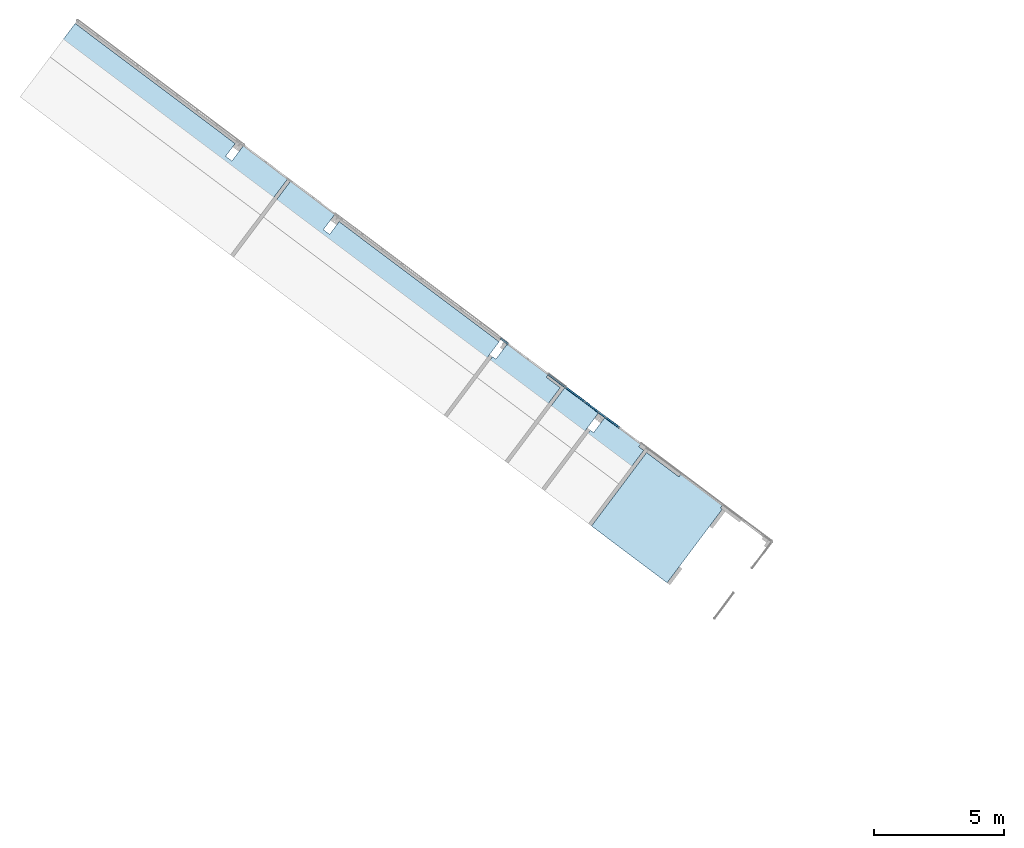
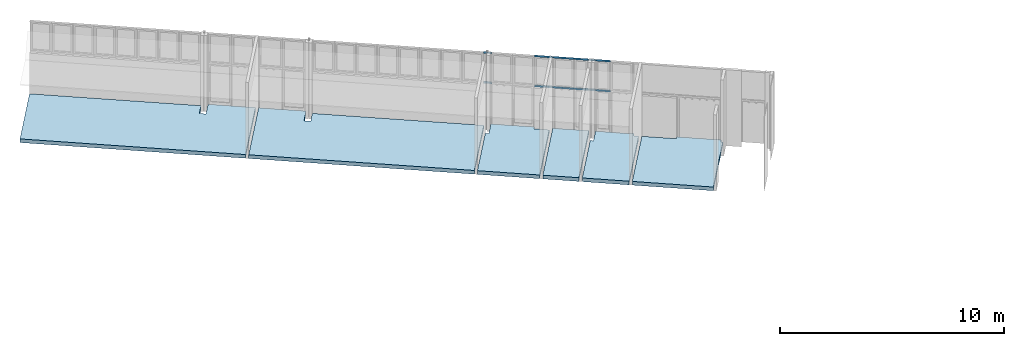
# One storey, part 4 of 18: 12 members, 6 slabs, 1 element without a shape of its own.
"""IFC2X3 building model written with IfcOpenShell, lengths in metres."""

import ifcopenshell
import ifcopenshell.guid

model = None  # the IFC model being written
_history = None  # IfcOwnerHistory: only IFC2X3 demands one
_inside = {}  # id of a spatial element -> (the spatial element, [elements in it])
_under = {}  # id of a project, library or spatial element -> (it, [spatial elements below it])
_declared = {}  # id of a project -> (the project, [libraries it declares])
_typed = {}  # id of a type object -> (the type object, [elements of that type])
_made_of = {}  # id of a material, layer set ... -> (it, [elements and type objects made of it])


def new_model(schema):
    """Start an empty IFC model of exactly this schema.

    Asked for "IFC4X3", IfcOpenShell would pick the latest addendum, in which some entities
    have other attributes; the version numbers below select the first issue.
    IFC2X3 requires an IfcOwnerHistory on every rooted entity: one is made here for all.
    """
    global model, _history
    if schema == "IFC4X3":
        model = ifcopenshell.file(schema_version=(4, 3, 0, 0))
    else:
        model = ifcopenshell.file(schema=schema)
    _inside.clear()
    _under.clear()
    _declared.clear()
    _typed.clear()
    _made_of.clear()
    _history = None
    if model.schema == "IFC2X3":
        org = make("IfcOrganization", Name="unknown")
        user = make(
            "IfcPersonAndOrganization",
            ThePerson=make("IfcPerson", FamilyName="unknown"),
            TheOrganization=org,
        )
        app = make(
            "IfcApplication",
            ApplicationDeveloper=org,
            Version="unknown",
            ApplicationFullName="unknown",
            ApplicationIdentifier="unknown",
        )
        _history = make(
            "IfcOwnerHistory",
            OwningUser=user,
            OwningApplication=app,
            ChangeAction="ADDED",
            CreationDate=0,
        )
    return model


def make(cls, **values):
    """One entity of the class cls with the attributes given. An attribute that is None is left unset."""
    return model.create_entity(
        cls, **{name: value for name, value in values.items() if value is not None}
    )


def entity(cls, *values):
    """Any entity or typed value of the class cls, its attributes in the order of the schema. None: left unset."""
    e = model.create_entity(cls)
    for i, value in enumerate(values):
        if value is not None:
            e[i] = value
    return e


def rooted(cls, **values):
    """An entity with a GlobalId (a new one), such as an element, a storey or a relation."""
    return make(cls, GlobalId=ifcopenshell.guid.new(), OwnerHistory=_history, **values)


def si_unit(unit_type, name, prefix=None):
    """IfcSIUnit, for example si_unit("LENGTHUNIT", "METRE", prefix="MILLI")."""
    return make("IfcSIUnit", UnitType=unit_type, Prefix=prefix, Name=name)


def converted_unit(unit_type, name, factor, base, dimensions=None, offset=None):
    """IfcConversionBasedUnit, such as the inch: factor (a typed value) times the base unit."""
    return make(
        "IfcConversionBasedUnit"
        if offset is None
        else "IfcConversionBasedUnitWithOffset",
        ConversionOffset=offset,
        Dimensions=None
        if dimensions is None
        else entity("IfcDimensionalExponents", *dimensions),
        UnitType=unit_type,
        Name=name,
        ConversionFactor=make(
            "IfcMeasureWithUnit", ValueComponent=factor, UnitComponent=base
        ),
    )


def derived_unit(unit_type, elements):
    """IfcDerivedUnit: a product of units, each with its exponent."""
    return make(
        "IfcDerivedUnit",
        Elements=[
            make("IfcDerivedUnitElement", Unit=unit, Exponent=power)
            for unit, power in elements
        ],
        UnitType=unit_type,
    )


def assignment(units):
    """IfcUnitAssignment: the units of a project."""
    return None if units is None else make("IfcUnitAssignment", Units=units)


def point(xyz):
    """IfcCartesianPoint."""
    return None if xyz is None else make("IfcCartesianPoint", Coordinates=xyz)


def direction(xyz):
    """IfcDirection."""
    return None if xyz is None else make("IfcDirection", DirectionRatios=xyz)


def frame(location, z_axis=None, x_axis=None):
    """IfcAxis2Placement3D, a coordinate frame: its origin and axes. An axis left out is left unset."""
    return make(
        "IfcAxis2Placement3D",
        Location=point(location),
        Axis=direction(z_axis),
        RefDirection=direction(x_axis),
    )


def frame_2d(location, x_axis=None):
    """IfcAxis2Placement2D, a coordinate frame in the plane: its origin and x axis."""
    return make(
        "IfcAxis2Placement2D", Location=point(location), RefDirection=direction(x_axis)
    )


def origin():
    """The frame at (0, 0, 0) with its axes left unset."""
    return frame((0.0, 0.0, 0.0))


def origin_2d_with_axis():
    """The frame at (0, 0) in the plane with the x axis (1, 0) written out."""
    return frame_2d((0.0, 0.0), x_axis=(1.0, 0.0))


def place(relative_to, where):
    """IfcLocalPlacement: puts the frame where relative to a parent placement (None: the world)."""
    return make(
        "IfcLocalPlacement", PlacementRelTo=relative_to, RelativePlacement=where
    )


def context(
    kind, dimensions, precision=None, world=None, true_north=None, identifier=None
):
    """IfcGeometricRepresentationContext, for example the 3D "Model" context."""
    return make(
        "IfcGeometricRepresentationContext",
        ContextIdentifier=identifier,
        ContextType=kind,
        CoordinateSpaceDimension=dimensions,
        Precision=precision,
        WorldCoordinateSystem=world,
        TrueNorth=true_north,
    )


def subcontext(parent, identifier, kind, view, scale=None):
    """IfcGeometricRepresentationSubContext, for example "Body" below "Model"."""
    return make(
        "IfcGeometricRepresentationSubContext",
        ContextIdentifier=identifier,
        ContextType=kind,
        ParentContext=parent,
        TargetScale=scale,
        TargetView=view,
    )


def project(units=None, contexts=None):
    """IfcProject with its units and contexts."""
    return rooted(
        "IfcProject",
        Name="project",
        RepresentationContexts=contexts,
        UnitsInContext=assignment(units),
    )


def spatial(cls, under=None, at=None, **own):
    """A site, building, storey or space (cls), placed at a placement, below another one or the project."""
    s = rooted(cls, ObjectPlacement=at, **own)
    if under is not None:
        _under.setdefault(under.id(), (under, []))[1].append(s)
    return s


def polyline(points):
    """IfcPolyline through the points."""
    return make("IfcPolyline", Points=[point(p) for p in points])


def profile(cls, at=None, kind="AREA", **sizes):
    """A parametric profile (cls). Its sizes go by their IFC names, for example OverallWidth=200.0."""
    return make(cls, ProfileType=kind, Position=at, **sizes)


def rectangle(**sizes):
    """IfcRectangleProfileDef."""
    return profile("IfcRectangleProfileDef", **sizes)


def outline(outer, holes=None, kind="AREA"):
    """IfcArbitraryClosedProfileDef: a profile drawn as a closed curve; with holes, ...WithVoids."""
    if holes is None:
        return make("IfcArbitraryClosedProfileDef", ProfileType=kind, OuterCurve=outer)
    return make(
        "IfcArbitraryProfileDefWithVoids",
        ProfileType=kind,
        OuterCurve=outer,
        InnerCurves=holes,
    )


def extrude(swept, where, along, depth):
    """IfcExtrudedAreaSolid: the profile swept, set in the frame where, extruded along a direction by depth."""
    return make(
        "IfcExtrudedAreaSolid",
        SweptArea=swept,
        Position=where,
        ExtrudedDirection=direction(along),
        Depth=depth,
    )


def shape(context_of_items, identifier, shape_type, items):
    """IfcShapeRepresentation: the items that make up one representation, for example the "Body"."""
    return make(
        "IfcShapeRepresentation",
        ContextOfItems=context_of_items,
        RepresentationIdentifier=identifier,
        RepresentationType=shape_type,
        Items=items,
    )


def source(mapping_origin, context_of_items, identifier, shape_type, items):
    """IfcRepresentationMap: a shape defined once, which mapped items show again and again."""
    return make(
        "IfcRepresentationMap",
        MappingOrigin=mapping_origin,
        MappedRepresentation=shape(context_of_items, identifier, shape_type, items),
    )


def transform(
    local_origin,
    x_axis=None,
    y_axis=None,
    z_axis=None,
    scale=None,
    scale2=None,
    scale3=None,
    uniform=True,
):
    """IfcCartesianTransformationOperator3D, or its non-uniform kind. x_axis, y_axis, z_axis: its Axis1, 2, 3."""
    if uniform:
        return make(
            "IfcCartesianTransformationOperator3D",
            Axis1=direction(x_axis),
            Axis2=direction(y_axis),
            LocalOrigin=point(local_origin),
            Scale=scale,
            Axis3=direction(z_axis),
        )
    return make(
        "IfcCartesianTransformationOperator3DnonUniform",
        Axis1=direction(x_axis),
        Axis2=direction(y_axis),
        LocalOrigin=point(local_origin),
        Scale=scale,
        Axis3=direction(z_axis),
        Scale2=scale2,
        Scale3=scale3,
    )


def mapped(mapping_source, mapping_target):
    """IfcMappedItem: shows the shape of a source again, moved by a transform."""
    return make(
        "IfcMappedItem", MappingSource=mapping_source, MappingTarget=mapping_target
    )


def material(Name=None, Category=None):
    """IfcMaterial."""
    return make("IfcMaterial", Name=Name, Category=Category)


def layer(
    of_material, thickness, ventilated=None, Name=None, Category=None, Priority=None
):
    """IfcMaterialLayer: one layer of a wall or slab, of a material (None: an air gap)."""
    return make(
        "IfcMaterialLayer",
        Material=of_material,
        LayerThickness=thickness,
        IsVentilated=ventilated,
        Name=Name,
        Category=Category,
        Priority=Priority,
    )


def layer_set(layers, Name=None):
    """IfcMaterialLayerSet."""
    return make("IfcMaterialLayerSet", MaterialLayers=layers, LayerSetName=Name)


def layer_usage(for_layer_set, set_direction, sense, offset, extent=None):
    """IfcMaterialLayerSetUsage: how a layer set lies in its element."""
    return make(
        "IfcMaterialLayerSetUsage",
        ForLayerSet=for_layer_set,
        LayerSetDirection=set_direction,
        DirectionSense=sense,
        OffsetFromReferenceLine=offset,
        ReferenceExtent=extent,
    )


def made_of(thing, what):
    """Note that an element or type object is made of a material, layer set ...; save() writes the relation."""
    if what is not None:
        _made_of.setdefault(what.id(), (what, []))[1].append(thing)
    return thing


def type_object(cls, material=None, **own):
    """A type object (cls), such as IfcWallType, which elements share."""
    return made_of(rooted(cls, **own), material)


def type_shapes(of_type, sources):
    """Give a type object the sources (RepresentationMaps) that its elements show as mapped items."""
    of_type.RepresentationMaps = sources


def element(
    cls,
    number,
    at=None,
    inside=None,
    cuts=None,
    type_object=None,
    material=None,
    context=None,
    identifier="Body",
    shape_type=None,
    held_by="IfcProductDefinitionShape",
    body=None,
    shapes=None,
    **own,
):
    """One element of the class cls, such as IfcWall. Its Tag is "e" and its number.

    at: its placement. inside: the storey or other place that contains it. cuts: it is an
    opening in that element (IfcRelVoidsElement). A single representation is given by context,
    identifier, shape_type and body (its items); several are given by shapes. held_by: the class
    of the entity that holds the representations. save() writes the other relations.
    """
    e = rooted(cls, Tag="e%d" % number, ObjectPlacement=at, **own)
    if body is not None:
        shapes = [shape(context, identifier, shape_type, body)]
    if shapes is not None:
        e.Representation = make(held_by, Representations=shapes)
    if inside is not None:
        _inside.setdefault(inside.id(), (inside, []))[1].append(e)
    if cuts is not None:
        rooted(
            "IfcRelVoidsElement", RelatingBuildingElement=cuts, RelatedOpeningElement=e
        )
    if type_object is not None:
        _typed.setdefault(type_object.id(), (type_object, []))[1].append(e)
    return made_of(e, material)


def aggregate(whole, parts):
    """IfcRelAggregates: a whole, such as a stair, and the parts it consists of."""
    return rooted("IfcRelAggregates", RelatingObject=whole, RelatedObjects=parts)


def save(model, path):
    """Write the relations noted so far, then the file.

    IfcRelAggregates (storeys below a building ...), IfcRelContainedInSpatialStructure (elements
    in a storey), IfcRelDefinesByType, IfcRelAssociatesMaterial and IfcRelDeclares: one each for
    every whole, place, type object, material and project.
    """
    for whole, parts in _under.values():
        aggregate(whole, parts)
    for where, things in _inside.values():
        rooted(
            "IfcRelContainedInSpatialStructure",
            RelatedElements=things,
            RelatingStructure=where,
        )
    for kind, things in _typed.values():
        rooted("IfcRelDefinesByType", RelatedObjects=things, RelatingType=kind)
    for what, things in _made_of.values():
        rooted("IfcRelAssociatesMaterial", RelatedObjects=things, RelatingMaterial=what)
    for by, libraries in _declared.values():
        rooted("IfcRelDeclares", RelatingContext=by, RelatedDefinitions=libraries)
    model.write(path)


model = new_model("IFC2X3")

# Units and contexts
model_context = context("Model", 3, precision=1e-05, world=origin(), true_north=direction((6.123031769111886e-17, 1.0)))
body_context = subcontext(model_context, "Body", "Model", "MODEL_VIEW")
ifc_project = project(units=[si_unit("LENGTHUNIT", "METRE"), si_unit("AREAUNIT", "SQUARE_METRE"), si_unit("VOLUMEUNIT", "CUBIC_METRE"), converted_unit("PLANEANGLEUNIT", "DEGREE", entity("IfcRatioMeasure", 0.017453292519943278), si_unit("PLANEANGLEUNIT", "RADIAN"), dimensions=[0, 0, 0, 0, 0, 0, 0]), si_unit("MASSUNIT", "GRAM", prefix="KILO"), derived_unit("MASSDENSITYUNIT", [(si_unit("MASSUNIT", "GRAM", prefix="KILO"), 1), (si_unit("LENGTHUNIT", "METRE"), -3)]), derived_unit("IONCONCENTRATIONUNIT", [(si_unit("MASSUNIT", "GRAM", prefix="KILO"), 1), (si_unit("LENGTHUNIT", "METRE"), -3)]), derived_unit("MOMENTOFINERTIAUNIT", [(si_unit("LENGTHUNIT", "METRE"), 4)]), si_unit("TIMEUNIT", "SECOND"), si_unit("FREQUENCYUNIT", "HERTZ"), si_unit("THERMODYNAMICTEMPERATUREUNIT", "DEGREE_CELSIUS"), derived_unit("THERMALTRANSMITTANCEUNIT", [(si_unit("MASSUNIT", "GRAM", prefix="KILO"), 1), (si_unit("THERMODYNAMICTEMPERATUREUNIT", "KELVIN"), -1), (si_unit("TIMEUNIT", "SECOND"), -3)]), derived_unit("THERMALCONDUCTANCEUNIT", [(si_unit("MASSUNIT", "GRAM", prefix="KILO"), 1), (si_unit("THERMODYNAMICTEMPERATUREUNIT", "KELVIN"), -1), (si_unit("TIMEUNIT", "SECOND"), -3), (si_unit("LENGTHUNIT", "METRE"), 1)]), derived_unit("VOLUMETRICFLOWRATEUNIT", [(si_unit("LENGTHUNIT", "METRE"), 3), (si_unit("TIMEUNIT", "SECOND"), -1)]), derived_unit("MASSFLOWRATEUNIT", [(si_unit("MASSUNIT", "GRAM", prefix="KILO"), 1), (si_unit("TIMEUNIT", "SECOND"), -1)]), derived_unit("ROTATIONALFREQUENCYUNIT", [(si_unit("TIMEUNIT", "SECOND"), -1)]), si_unit("ELECTRICCURRENTUNIT", "AMPERE"), si_unit("ELECTRICVOLTAGEUNIT", "VOLT"), si_unit("POWERUNIT", "WATT"), si_unit("FORCEUNIT", "NEWTON", prefix="KILO"), si_unit("ILLUMINANCEUNIT", "LUX"), si_unit("LUMINOUSFLUXUNIT", "LUMEN"), si_unit("LUMINOUSINTENSITYUNIT", "CANDELA"), derived_unit("USERDEFINED", [(si_unit("MASSUNIT", "GRAM", prefix="KILO"), -1), (si_unit("LENGTHUNIT", "METRE"), -2), (si_unit("TIMEUNIT", "SECOND"), 3), (si_unit("LUMINOUSFLUXUNIT", "LUMEN"), 1)]), derived_unit("USERDEFINED", [(si_unit("MASSUNIT", "GRAM", prefix="KILO"), 1), (si_unit("TIMEUNIT", "SECOND"), -3), (si_unit("LENGTHUNIT", "METRE"), 3), (si_unit("ELECTRICCURRENTUNIT", "AMPERE"), -2)]), derived_unit("SOUNDPOWERUNIT", [(si_unit("MASSUNIT", "GRAM", prefix="KILO"), 1), (si_unit("TIMEUNIT", "SECOND"), -3), (si_unit("LENGTHUNIT", "METRE"), 2)]), derived_unit("SOUNDPRESSUREUNIT", [(si_unit("MASSUNIT", "GRAM", prefix="KILO"), 1), (si_unit("LENGTHUNIT", "METRE"), -1), (si_unit("TIMEUNIT", "SECOND"), -2)]), derived_unit("LINEARVELOCITYUNIT", [(si_unit("LENGTHUNIT", "METRE"), 1), (si_unit("TIMEUNIT", "SECOND"), -1)]), si_unit("PRESSUREUNIT", "PASCAL"), derived_unit("USERDEFINED", [(si_unit("MASSUNIT", "GRAM", prefix="KILO"), 1), (si_unit("LENGTHUNIT", "METRE"), -2), (si_unit("TIMEUNIT", "SECOND"), -2)]), derived_unit("LINEARFORCEUNIT", [(si_unit("MASSUNIT", "GRAM", prefix="KILO"), 1), (si_unit("TIMEUNIT", "SECOND"), -2)]), derived_unit("PLANARFORCEUNIT", [(si_unit("MASSUNIT", "GRAM", prefix="KILO"), 1), (si_unit("LENGTHUNIT", "METRE"), -1), (si_unit("TIMEUNIT", "SECOND"), -2)]), derived_unit("SPECIFICHEATCAPACITYUNIT", [(si_unit("THERMODYNAMICTEMPERATUREUNIT", "KELVIN"), -1), (si_unit("LENGTHUNIT", "METRE"), 2), (si_unit("TIMEUNIT", "SECOND"), -2)]), derived_unit("HEATINGVALUEUNIT", [(si_unit("LENGTHUNIT", "METRE"), 2), (si_unit("TIMEUNIT", "SECOND"), -2)]), derived_unit("VAPORPERMEABILITYUNIT", [(si_unit("LENGTHUNIT", "METRE"), -1), (si_unit("TIMEUNIT", "SECOND"), 1)]), derived_unit("DYNAMICVISCOSITYUNIT", [(si_unit("MASSUNIT", "GRAM", prefix="KILO"), 1), (si_unit("TIMEUNIT", "SECOND"), -1), (si_unit("LENGTHUNIT", "METRE"), -1)]), derived_unit("THERMALEXPANSIONCOEFFICIENTUNIT", [(si_unit("THERMODYNAMICTEMPERATUREUNIT", "KELVIN"), -1)]), derived_unit("MODULUSOFELASTICITYUNIT", [(si_unit("MASSUNIT", "GRAM", prefix="KILO"), 1), (si_unit("LENGTHUNIT", "METRE"), -1), (si_unit("TIMEUNIT", "SECOND"), -2)]), derived_unit("ISOTHERMALMOISTURECAPACITYUNIT", [(si_unit("LENGTHUNIT", "METRE"), 3), (si_unit("MASSUNIT", "GRAM", prefix="KILO"), -1)]), derived_unit("MOISTUREDIFFUSIVITYUNIT", [(si_unit("TIMEUNIT", "SECOND"), -1), (si_unit("LENGTHUNIT", "METRE"), 2)])], contexts=[model_context])

# Site, building, storey
site_placement = place(None, frame((0.0, 0.0, 235.0), z_axis=(0.0, 0.0, 1.0), x_axis=(-0.7996477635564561, 0.6004693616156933, 0.0)))
site = spatial("IfcSite", under=ifc_project, at=site_placement, Name="Default", CompositionType="ELEMENT")
building_placement = place(site_placement, origin())
building = spatial("IfcBuilding", under=site, at=building_placement, CompositionType="ELEMENT")
storey_placement = place(building_placement, frame((0.0, 0.0, -4.459999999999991)))
storey = spatial("IfcBuildingStorey", under=building, at=storey_placement, Name="PS1- Vestuari", CompositionType="ELEMENT", Elevation=-4.459999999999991)

# Curtain wall, members
curtain_wall_type = type_object("IfcCurtainWallType", Name="Muro cortina:MC- EXT- AL6", PredefinedType="NOTDEFINED")
curtain_wall_placement = place(storey_placement, frame((0.0, 0.0, 4.459999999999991)))
curtain_wall = element("IfcCurtainWall", 1, at=curtain_wall_placement, inside=storey, type_object=curtain_wall_type, Name="Muro cortina:MC- EXT- AL6", ObjectType="Muro cortina:MC- EXT- AL6")
ifc_material_1 = material(Name="_Alumini- T1- Perfil")
member_type_1 = type_object("IfcMemberType", Name="Montante rectangular:MC- Alu- 140x52,5 cm- Fa pista- Superior", PredefinedType="MULLION", material=ifc_material_1)
shared_shape_1 = source(origin(), body_context, "Body", "SweptSolid", [
    extrude(outline(polyline([(-0.03933333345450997, -0.04916666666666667), (0.02066666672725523, -0.04916666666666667), (0.020666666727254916, 0.048333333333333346), (0.018666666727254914, 0.04833333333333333), (0.018666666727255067, 0.00083333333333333), (-0.03933333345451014, 0.00083333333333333), (-0.03933333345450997, -0.04916666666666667)])), frame((-0.048333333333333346, -0.03933333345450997, -0.35000000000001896), z_axis=(0.0, 0.0, 1.0), x_axis=(0.0, -1.0, 0.0)), (0.0, 0.0, 1.0), 0.35000000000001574),
])
type_shapes(member_type_1, [shared_shape_1])
member_1_placement = place(curtain_wall_placement, frame((49.37014768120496, -40.465191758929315, -0.52), z_axis=(1.0, 0.0, 0.0), x_axis=(0.0, 0.0, 1.0)))
member_1 = element("IfcMember", 2, at=member_1_placement, type_object=member_type_1, material=ifc_material_1, Name="Montante rectangular:MC- Alu- 140x52,5 cm- Fa pista- Superior", ObjectType="Montante rectangular:MC- Alu- 140x52,5 cm- Fa pista- Superior", context=body_context, shape_type="MappedRepresentation", body=[
    mapped(shared_shape_1, transform((0.0, 0.0, 0.0), scale=1.0)),
])
member_type_2 = type_object("IfcMemberType", Name="Montante rectangular:MC- Alu- 52x80 cm- Fa pista- inferior", PredefinedType="MULLION", material=ifc_material_1)
shared_shape_2 = source(origin(), body_context, "Body", "SweptSolid", [
    extrude(rectangle(XDim=0.06000000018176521, YDim=0.085, at=origin_2d_with_axis()), frame((-0.0425, -0.030000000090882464, -0.35000000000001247), z_axis=(0.0, 0.0, 1.0), x_axis=(0.0, -1.0, 0.0)), (0.0, 0.0, 1.0), 0.35000000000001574),
])
type_shapes(member_type_2, [shared_shape_2])
member_2_placement = place(curtain_wall_placement, frame((49.020147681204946, -40.46519175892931, -2.249999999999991), z_axis=(-1.0, 0.0, 0.0), x_axis=(0.0, 0.0, -1.0)))
member_2 = element("IfcMember", 3, at=member_2_placement, type_object=member_type_2, material=ifc_material_1, Name="Montante rectangular:MC- Alu- 52x80 cm- Fa pista- inferior", ObjectType="Montante rectangular:MC- Alu- 52x80 cm- Fa pista- inferior", context=body_context, shape_type="MappedRepresentation", body=[
    mapped(shared_shape_2, transform((0.0, 0.0, 0.0), scale=1.0)),
])
member_type_3 = type_object("IfcMemberType", Name="Montante rectangular:MC- Alu- 140x52,5 cm- Fa pista- Superior", PredefinedType="MULLION", material=ifc_material_1)
shared_shape_3 = source(origin(), body_context, "Body", "SweptSolid", [
    extrude(outline(polyline([(-0.03933333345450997, -0.04916666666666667), (0.02066666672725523, -0.04916666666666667), (0.020666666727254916, 0.048333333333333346), (0.018666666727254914, 0.04833333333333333), (0.018666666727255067, 0.00083333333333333), (-0.03933333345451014, 0.00083333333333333), (-0.03933333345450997, -0.04916666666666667)])), frame((-0.048333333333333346, -0.03933333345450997, -0.3560000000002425), z_axis=(0.0, 0.0, 1.0), x_axis=(0.0, -1.0, 0.0)), (0.0, 0.0, 1.0), 0.3560000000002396),
])
type_shapes(member_type_3, [shared_shape_3])
member_3_placement = place(curtain_wall_placement, frame((54.07614768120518, -40.4651917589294, -0.52), z_axis=(1.0, 0.0, 0.0), x_axis=(0.0, 0.0, 1.0)))
member_3 = element("IfcMember", 4, at=member_3_placement, type_object=member_type_3, material=ifc_material_1, Name="Montante rectangular:MC- Alu- 140x52,5 cm- Fa pista- Superior", ObjectType="Montante rectangular:MC- Alu- 140x52,5 cm- Fa pista- Superior", context=body_context, shape_type="MappedRepresentation", body=[
    mapped(shared_shape_3, transform((0.0, 0.0, 0.0), scale=1.0)),
])
member_type_4 = type_object("IfcMemberType", Name="Montante rectangular:MC- Alu- 52x80 cm- Fa pista- inferior", PredefinedType="MULLION", material=ifc_material_1)
shared_shape_4 = source(origin(), body_context, "Body", "SweptSolid", [
    extrude(rectangle(XDim=0.06000000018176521, YDim=0.085, at=origin_2d_with_axis()), frame((-0.0425, -0.030000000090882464, -0.3560000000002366), z_axis=(0.0, 0.0, 1.0), x_axis=(0.0, -1.0, 0.0)), (0.0, 0.0, 1.0), 0.3560000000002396),
])
type_shapes(member_type_4, [shared_shape_4])
member_4_placement = place(curtain_wall_placement, frame((53.72014768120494, -40.46519175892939, -2.249999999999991), z_axis=(-1.0, 0.0, 0.0), x_axis=(0.0, 0.0, -1.0)))
member_4 = element("IfcMember", 5, at=member_4_placement, type_object=member_type_4, material=ifc_material_1, Name="Montante rectangular:MC- Alu- 52x80 cm- Fa pista- inferior", ObjectType="Montante rectangular:MC- Alu- 52x80 cm- Fa pista- inferior", context=body_context, shape_type="MappedRepresentation", body=[
    mapped(shared_shape_4, transform((0.0, 0.0, 0.0), scale=1.0)),
])
member_type_5 = type_object("IfcMemberType", Name="Montante rectangular:MC- Alu- 140x52,5 cm- Fa pista- Superior", PredefinedType="MULLION", material=ifc_material_1)
shared_shape_5 = source(origin(), body_context, "Body", "SweptSolid", [
    extrude(outline(polyline([(-0.03933333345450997, -0.04916666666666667), (0.02066666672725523, -0.04916666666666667), (0.020666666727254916, 0.048333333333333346), (0.018666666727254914, 0.04833333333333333), (0.018666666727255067, 0.00083333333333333), (-0.03933333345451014, 0.00083333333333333), (-0.03933333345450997, -0.04916666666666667)])), frame((-0.048333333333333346, -0.03933333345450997, -0.8399999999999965), z_axis=(0.0, 0.0, 1.0), x_axis=(0.0, -1.0, 0.0)), (0.0, 0.0, 1.0), 0.8399999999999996),
])
type_shapes(member_type_5, [shared_shape_5])
member_5_placement = place(curtain_wall_placement, frame((51.78114768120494, -40.465191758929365, -0.52), z_axis=(1.0, 0.0, 0.0), x_axis=(0.0, 0.0, 1.0)))
member_5 = element("IfcMember", 6, at=member_5_placement, type_object=member_type_5, material=ifc_material_1, Name="Montante rectangular:MC- Alu- 140x52,5 cm- Fa pista- Superior", ObjectType="Montante rectangular:MC- Alu- 140x52,5 cm- Fa pista- Superior", context=body_context, shape_type="MappedRepresentation", body=[
    mapped(shared_shape_5, transform((0.0, 0.0, 0.0), scale=1.0)),
])
member_type_6 = type_object("IfcMemberType", Name="Montante rectangular:MC- Alu- 52x80 cm- Fa pista- inferior", PredefinedType="MULLION", material=ifc_material_1)
shared_shape_6 = source(origin(), body_context, "Body", "SweptSolid", [
    extrude(rectangle(XDim=0.06000000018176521, YDim=0.085, at=origin_2d_with_axis()), frame((-0.0425, -0.030000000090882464, -0.8400000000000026), z_axis=(0.0, 0.0, 1.0), x_axis=(0.0, -1.0, 0.0)), (0.0, 0.0, 1.0), 0.8399999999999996),
])
type_shapes(member_type_6, [shared_shape_6])
member_6_placement = place(curtain_wall_placement, frame((50.94114768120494, -40.46519175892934, -2.249999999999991), z_axis=(-1.0, 0.0, 0.0), x_axis=(0.0, 0.0, -1.0)))
member_6 = element("IfcMember", 7, at=member_6_placement, type_object=member_type_6, material=ifc_material_1, Name="Montante rectangular:MC- Alu- 52x80 cm- Fa pista- inferior", ObjectType="Montante rectangular:MC- Alu- 52x80 cm- Fa pista- inferior", context=body_context, shape_type="MappedRepresentation", body=[
    mapped(shared_shape_6, transform((0.0, 0.0, 0.0), scale=1.0)),
])
member_type_7 = type_object("IfcMemberType", Name="Montante rectangular:MC- Alu- 140x52,5 cm- Fa pista- Superior", PredefinedType="MULLION", material=ifc_material_1)
shared_shape_7 = source(origin(), body_context, "Body", "SweptSolid", [
    extrude(outline(polyline([(-0.03933333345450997, -0.04916666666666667), (0.02066666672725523, -0.04916666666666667), (0.020666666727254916, 0.048333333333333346), (0.018666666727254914, 0.04833333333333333), (0.018666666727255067, 0.00083333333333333), (-0.03933333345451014, 0.00083333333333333), (-0.03933333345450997, -0.04916666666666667)])), frame((-0.048333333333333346, -0.03933333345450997, -0.9290000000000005), z_axis=(0.0, 0.0, 1.0), x_axis=(0.0, -1.0, 0.0)), (0.0, 0.0, 1.0), 0.9289999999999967),
])
type_shapes(member_type_7, [shared_shape_7])
member_7_placement = place(curtain_wall_placement, frame((50.94114768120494, -40.46519175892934, -0.52), z_axis=(1.0, 0.0, 0.0), x_axis=(0.0, 0.0, 1.0)))
member_7 = element("IfcMember", 8, at=member_7_placement, type_object=member_type_7, material=ifc_material_1, Name="Montante rectangular:MC- Alu- 140x52,5 cm- Fa pista- Superior", ObjectType="Montante rectangular:MC- Alu- 140x52,5 cm- Fa pista- Superior", context=body_context, shape_type="MappedRepresentation", body=[
    mapped(shared_shape_7, transform((0.0, 0.0, 0.0), scale=1.0)),
])
member_type_8 = type_object("IfcMemberType", Name="Montante rectangular:MC- Alu- 52x80 cm- Fa pista- inferior", PredefinedType="MULLION", material=ifc_material_1)
shared_shape_8 = source(origin(), body_context, "Body", "SweptSolid", [
    extrude(rectangle(XDim=0.06000000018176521, YDim=0.085, at=origin_2d_with_axis()), frame((-0.0425, -0.030000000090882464, -0.9289999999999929), z_axis=(0.0, 0.0, 1.0), x_axis=(0.0, -1.0, 0.0)), (0.0, 0.0, 1.0), 0.9289999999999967),
])
type_shapes(member_type_8, [shared_shape_8])
member_8_placement = place(curtain_wall_placement, frame((50.012147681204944, -40.46519175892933, -2.249999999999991), z_axis=(-1.0, 0.0, 0.0), x_axis=(0.0, 0.0, -1.0)))
member_8 = element("IfcMember", 9, at=member_8_placement, type_object=member_type_8, material=ifc_material_1, Name="Montante rectangular:MC- Alu- 52x80 cm- Fa pista- inferior", ObjectType="Montante rectangular:MC- Alu- 52x80 cm- Fa pista- inferior", context=body_context, shape_type="MappedRepresentation", body=[
    mapped(shared_shape_8, transform((0.0, 0.0, 0.0), scale=1.0)),
])
member_type_9 = type_object("IfcMemberType", Name="Montante rectangular:MC- Alu- 140x52,5 cm- Fa pista- Superior", PredefinedType="MULLION", material=ifc_material_1)
shared_shape_9 = source(origin(), body_context, "Body", "SweptSolid", [
    extrude(outline(polyline([(-0.03933333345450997, -0.04916666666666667), (0.02066666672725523, -0.04916666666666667), (0.020666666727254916, 0.048333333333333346), (0.018666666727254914, 0.04833333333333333), (0.018666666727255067, 0.00083333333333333), (-0.03933333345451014, 0.00083333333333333), (-0.03933333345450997, -0.04916666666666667)])), frame((-0.048333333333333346, -0.03933333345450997, -0.6419999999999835), z_axis=(0.0, 0.0, 1.0), x_axis=(0.0, -1.0, 0.0)), (0.0, 0.0, 1.0), 0.641999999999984),
])
type_shapes(member_type_9, [shared_shape_9])
member_9_placement = place(curtain_wall_placement, frame((50.012147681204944, -40.46519175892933, -0.52), z_axis=(1.0, 0.0, 0.0), x_axis=(0.0, 0.0, 1.0)))
member_9 = element("IfcMember", 10, at=member_9_placement, type_object=member_type_9, material=ifc_material_1, Name="Montante rectangular:MC- Alu- 140x52,5 cm- Fa pista- Superior", ObjectType="Montante rectangular:MC- Alu- 140x52,5 cm- Fa pista- Superior", context=body_context, shape_type="MappedRepresentation", body=[
    mapped(shared_shape_9, transform((0.0, 0.0, 0.0), scale=1.0)),
])
member_10_placement = place(curtain_wall_placement, frame((49.020147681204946, -40.46519175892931, -0.52), z_axis=(1.0, 0.0, 0.0), x_axis=(0.0, 0.0, 1.0)))
member_10 = element("IfcMember", 11, at=member_10_placement, type_object=member_type_9, material=ifc_material_1, Name="Montante rectangular:MC- Alu- 140x52,5 cm- Fa pista- Superior", ObjectType="Montante rectangular:MC- Alu- 140x52,5 cm- Fa pista- Superior", context=body_context, shape_type="MappedRepresentation", body=[
    mapped(shared_shape_9, transform((0.0, 0.0, 0.0), scale=1.0)),
])
member_type_10 = type_object("IfcMemberType", Name="Montante rectangular:MC- Alu- 52x80 cm- Fa pista- inferior", PredefinedType="MULLION", material=ifc_material_1)
shared_shape_10 = source(origin(), body_context, "Body", "SweptSolid", [
    extrude(rectangle(XDim=0.06000000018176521, YDim=0.085, at=origin_2d_with_axis()), frame((-0.0425, -0.030000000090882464, -0.6419999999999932), z_axis=(0.0, 0.0, 1.0), x_axis=(0.0, -1.0, 0.0)), (0.0, 0.0, 1.0), 0.6419999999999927),
])
type_shapes(member_type_10, [shared_shape_10])
member_11_placement = place(curtain_wall_placement, frame((49.37014768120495, -40.465191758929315, -2.249999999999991), z_axis=(-1.0, 0.0, 0.0), x_axis=(0.0, 0.0, -1.0)))
member_11 = element("IfcMember", 12, at=member_11_placement, type_object=member_type_10, material=ifc_material_1, Name="Montante rectangular:MC- Alu- 52x80 cm- Fa pista- inferior", ObjectType="Montante rectangular:MC- Alu- 52x80 cm- Fa pista- inferior", context=body_context, shape_type="MappedRepresentation", body=[
    mapped(shared_shape_10, transform((0.0, 0.0, 0.0), scale=1.0)),
])
member_12_placement = place(curtain_wall_placement, frame((48.378147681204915, -40.4651917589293, -2.249999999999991), z_axis=(-1.0, 0.0, 0.0), x_axis=(0.0, 0.0, -1.0)))
member_12 = element("IfcMember", 13, at=member_12_placement, type_object=member_type_10, material=ifc_material_1, Name="Montante rectangular:MC- Alu- 52x80 cm- Fa pista- inferior", ObjectType="Montante rectangular:MC- Alu- 52x80 cm- Fa pista- inferior", context=body_context, shape_type="MappedRepresentation", body=[
    mapped(shared_shape_10, transform((0.0, 0.0, 0.0), scale=1.0)),
])
aggregate(curtain_wall, [member_3, member_4, member_5, member_6, member_7, member_8, member_9, member_11, member_1, member_2, member_10, member_12])

# Slabs
ifc_material_2 = material(Name="_Formigó antilliscant- T2- PAV")
ifc_layer_1 = layer(ifc_material_2, 0.14)
ifc_material_3 = material(Name="_Aillament")
ifc_layer_2 = layer(ifc_material_3, 0.06)
ifc_layer_set = layer_set([ifc_layer_1, ifc_layer_2], Name="Suelo:PAV- Formigó Antilliscant + aillament- T1- 20 cm")
ifc_layer_usage = layer_usage(ifc_layer_set, "AXIS3", "POSITIVE", 0.0)
slab_type = type_object("IfcSlabType", Name="Suelo:PAV- Formigó Antilliscant + aillament- T1- 20 cm", PredefinedType="FLOOR", material=ifc_layer_set)
slab_1_placement = place(storey_placement, origin())
element("IfcSlab", 14, at=slab_1_placement, inside=storey, type_object=slab_type, material=ifc_layer_usage, Name="Suelo:PAV- Formigó Antilliscant + aillament- T1- 20 cm", ObjectType="Suelo:PAV- Formigó Antilliscant + aillament- T1- 20 cm", PredefinedType="FLOOR", context=body_context, shape_type="SweptSolid", body=[
    extrude(outline(polyline([(-1.1525000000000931, -3.6725000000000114), (2.5375000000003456, -3.6725000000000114), (2.537500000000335, 6.4574999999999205), (-0.9975000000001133, 6.457500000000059), (-0.9975000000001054, -1.242500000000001), (-0.38750000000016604, -1.2425000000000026), (-0.38750000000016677, -1.5425000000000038), (-1.152500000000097, -1.5425000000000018), (-1.1525000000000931, -3.6725000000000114)])), frame((67.98764768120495, -39.30269175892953, 0.0), z_axis=(0.0, 0.0, -1.0), x_axis=(0.0, 1.0, 0.0)), (0.0, 0.0, 1.0), 0.2),
])
slab_2_placement = place(storey_placement, origin())
element("IfcSlab", 15, at=slab_2_placement, inside=storey, type_object=slab_type, material=ifc_layer_usage, Name="Suelo:PAV- Formigó Antilliscant + aillament- T1- 20 cm", ObjectType="Suelo:PAV- Formigó Antilliscant + aillament- T1- 20 cm", PredefinedType="FLOOR", context=body_context, shape_type="SweptSolid", body=[
    extrude(outline(polyline([(-0.9975000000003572, -6.45750000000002), (2.537500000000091, -6.45750000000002), (2.537500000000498, 3.6724999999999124), (-1.152499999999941, 3.6725000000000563), (-1.1525000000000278, 1.5425000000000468), (-0.38750000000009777, 1.5425000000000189), (-0.3875000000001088, 1.2425000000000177), (-0.9975000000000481, 1.24250000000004), (-0.9975000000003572, -6.45750000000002)])), frame((60.50264768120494, -39.302691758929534, 0.0), z_axis=(0.0, 0.0, -1.0), x_axis=(0.0, 1.0, 0.0)), (0.0, 0.0, 1.0), 0.2),
])
slab_3_placement = place(storey_placement, origin())
element("IfcSlab", 16, at=slab_3_placement, inside=storey, type_object=slab_type, material=ifc_layer_usage, Name="Suelo:PAV- Formigó Antilliscant + aillament- T1- 20 cm", ObjectType="Suelo:PAV- Formigó Antilliscant + aillament- T1- 20 cm", PredefinedType="FLOOR", context=body_context, shape_type="SweptSolid", body=[
    extrude(outline(polyline([(-0.9975000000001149, -1.5282499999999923), (2.53750000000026, -1.5282499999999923), (2.537500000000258, 1.2707500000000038), (-0.3875000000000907, 1.2707500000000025), (-0.3875000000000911, 1.110750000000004), (-1.1525000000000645, 1.110750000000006), (-1.1525000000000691, -0.8532499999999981), (-0.9975000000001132, -0.8532499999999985), (-0.9975000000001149, -1.5282499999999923)])), frame((52.63439768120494, -39.302691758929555, 0.0), z_axis=(0.0, 0.0, -1.0), x_axis=(0.0, 1.0, 0.0)), (0.0, 0.0, 1.0), 0.2),
])
slab_4_placement = place(storey_placement, origin())
element("IfcSlab", 17, at=slab_4_placement, inside=storey, type_object=slab_type, material=ifc_layer_usage, Name="Suelo:PAV- Formigó Antilliscant + aillament- T1- 20 cm", ObjectType="Suelo:PAV- Formigó Antilliscant + aillament- T1- 20 cm", PredefinedType="FLOOR", context=body_context, shape_type="SweptSolid", body=[
    extrude(rectangle(XDim=3.6900000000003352, YDim=1.6209999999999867, at=frame_2d((-4.3298697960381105e-15, 0.0), x_axis=(1.0, 0.0))), frame((50.155647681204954, -38.61019175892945, 0.0), z_axis=(0.0, 0.0, -1.0), x_axis=(0.0, 1.0, 0.0)), (0.0, 0.0, 1.0), 0.2),
])
slab_5_placement = place(storey_placement, origin())
element("IfcSlab", 18, at=slab_5_placement, inside=storey, type_object=slab_type, material=ifc_layer_usage, Name="Suelo:PAV- Formigó Antilliscant + aillament- T1- 20 cm", ObjectType="Suelo:PAV- Formigó Antilliscant + aillament- T1- 20 cm", PredefinedType="FLOOR", context=body_context, shape_type="SweptSolid", body=[
    extrude(outline(polyline([(-0.9975000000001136, -1.0734999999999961), (2.537500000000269, -1.0734999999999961), (2.537500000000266, 1.0315000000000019), (-0.38750000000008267, 1.0315000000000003), (-0.387500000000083, 0.8814999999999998), (-1.1525000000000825, 0.8815000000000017), (-1.1525000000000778, -0.8394999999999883), (-0.9975000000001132, -0.8394999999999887), (-0.9975000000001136, -1.0734999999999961)])), frame((48.16364768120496, -39.30269175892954, 0.0), z_axis=(0.0, 0.0, -1.0), x_axis=(0.0, 1.0, 0.0)), (0.0, 0.0, 1.0), 0.2),
])
slab_6_placement = place(storey_placement, origin())
element("IfcSlab", 19, at=slab_6_placement, inside=storey, type_object=slab_type, material=ifc_layer_usage, Name="Suelo:PAV- Formigó Antilliscant + aillament- T1- 20 cm", ObjectType="Suelo:PAV- Formigó Antilliscant + aillament- T1- 20 cm", PredefinedType="FLOOR", context=body_context, shape_type="SweptSolid", body=[
    extrude(outline(polyline([(-0.8450000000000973, -1.4539999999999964), (2.6900000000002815, -1.4539999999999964), (2.6900000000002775, 2.185999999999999), (-0.8450000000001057, 2.185999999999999), (-0.845000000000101, 0.6339999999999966), (-1.0, 0.6339999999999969), (-1.0, -1.365999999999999), (-0.8450000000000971, -1.3659999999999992), (-0.8450000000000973, -1.4539999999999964)])), frame((44.76414768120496, -39.455191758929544, 0.0), z_axis=(0.0, 0.0, -1.0), x_axis=(0.0, 1.0, 0.0)), (0.0, 0.0, 1.0), 0.2),
])

save(model, "model.ifc")
